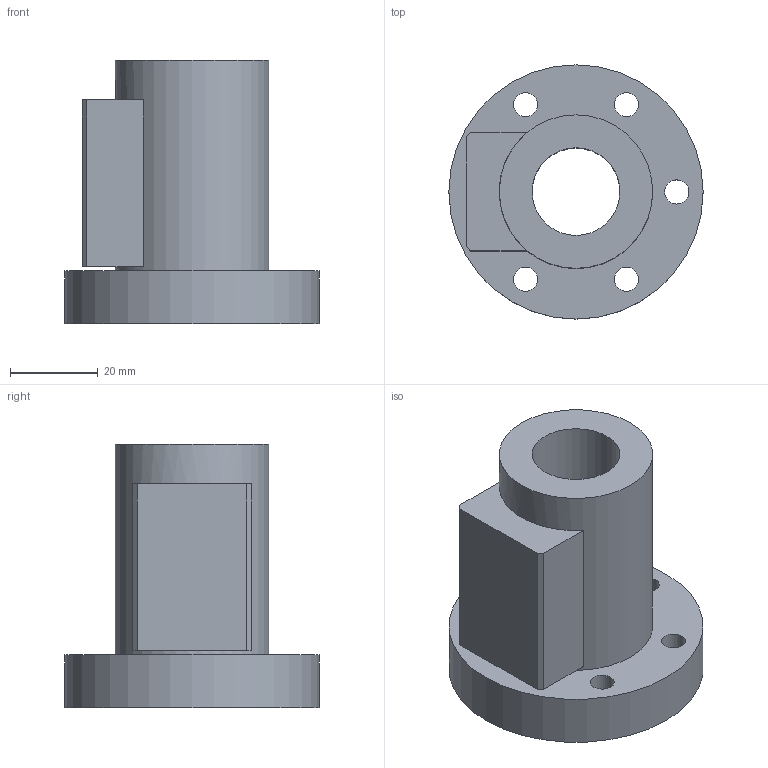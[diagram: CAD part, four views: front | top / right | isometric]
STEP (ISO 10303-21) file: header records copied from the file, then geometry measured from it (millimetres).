
FILE_DESCRIPTION(/* description */ (''),/* implementation_level */ '2;1');
FILE_NAME(/* name */ '20-5B2',/* time_stamp */ '2006-06-16T09:35:01+08:00',/* author */ (''),/* organization */ (''),/* preprocessor_version */ 'ST-DEVELOPER v9',/* originating_system */ 'UGS - NX 4.0',/* authorisation */ '');
FILE_SCHEMA (('CONFIG_CONTROL_DESIGN'));
Length unit declared in the file: millimetre
Products named in the file (1): 20-5B2
Bounding box: 58 x 58 x 60 mm (x, y, z)
Volume: 65961.3 mm3; surface area: 18405.9 mm2
Topology: 1 solids, 1 shells, 28 faces, 61 edges, 42 vertices
Faces by surface type: plane 15, cylinder 13
Full cylindrical faces by diameter (mm): 5.5 x5, 9.5 x5, 20 x1, 35 x1, 58 x1
Entity records: 794 total; most frequent: DIRECTION 130, CARTESIAN_POINT 111, ORIENTED_EDGE 88, EDGE_LOOP 60, AXIS2_PLACEMENT_3D 57, FACE_BOUND 45, EDGE_CURVE 44, VERTEX_POINT 38
